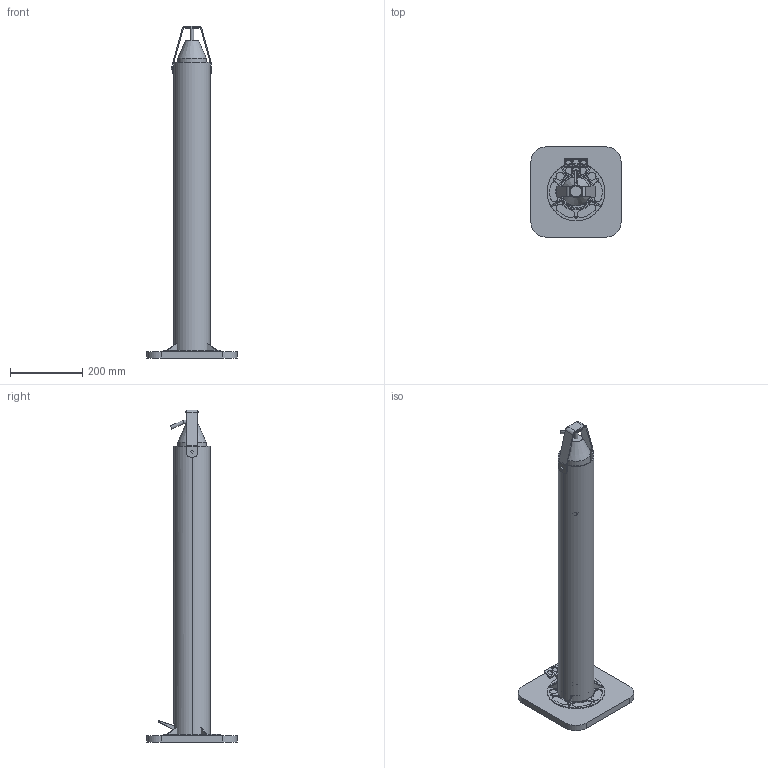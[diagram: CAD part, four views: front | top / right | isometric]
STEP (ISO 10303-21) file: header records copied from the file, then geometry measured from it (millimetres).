
FILE_DESCRIPTION (( 'STEP AP214' ), '1' );
FILE_NAME ('Assemblage1.STEP', '2020-05-31T14:08:59', ( 'portable' ), ( '' ), 'SwSTEP 2.0', 'SolidWorks 2014', '' );
FILE_SCHEMA (( 'AUTOMOTIVE_DESIGN' ));
Length unit declared in the file: millimetre
Products named in the file (12): Pièce1^Assemblage1; levierv2; supportv2; BOUTEILLE2; BANDE; BOUTEILLE; porte bidon; tige; croix intermediaire; tube pvc; socle; Assemblage1
Assembly tree (12 placements, depth 2):
  Assemblage1
    socle
    tube pvc
    croix intermediaire  x2
    tige
    porte bidon
    BOUTEILLE
    BANDE
    BOUTEILLE2
    supportv2
    levierv2
    Pièce1^Assemblage1
Bounding box: 250 x 250 x 921.95 mm (x, y, z)
Volume: 2849695.6 mm3; surface area: 818779.5 mm2
Topology: 12 solids, 12 shells, 409 faces, 1120 edges, 735 vertices
Faces by surface type: cylinder 244, plane 151, cone 6, torus 6, sphere 2
Entity records: 12501 total; most frequent: CARTESIAN_POINT 2346, DIRECTION 2144, ORIENTED_EDGE 1956, EDGE_CURVE 978, AXIS2_PLACEMENT_3D 821, VERTEX_POINT 641, LINE 502, VECTOR 502
